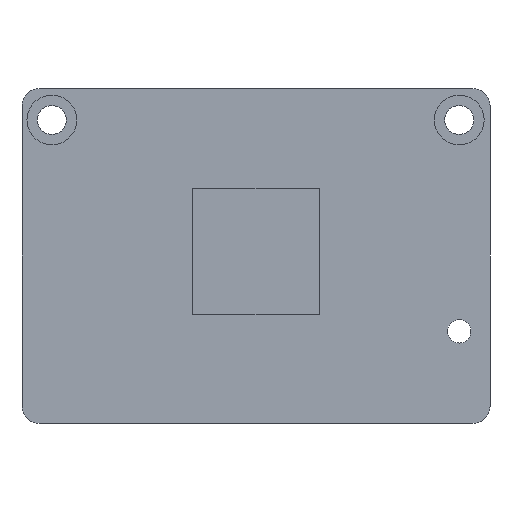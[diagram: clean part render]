
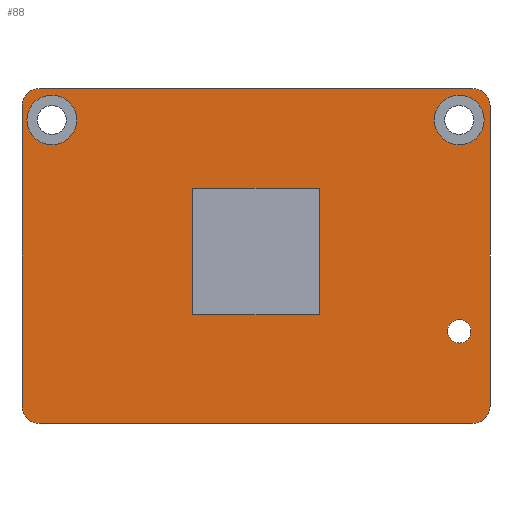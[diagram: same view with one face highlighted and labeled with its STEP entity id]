
A CAD part, front view. The second image highlights one B-rep face of the part: STEP entity #88.
In plain terms, the highlighted planar face has unit normal (0, -1, 0).
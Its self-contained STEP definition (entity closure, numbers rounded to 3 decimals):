
#24 = VERTEX_POINT('',#25);
#25 = CARTESIAN_POINT('',(18.85,-0.8,26.));
#40 = VERTEX_POINT('',#41);
#41 = CARTESIAN_POINT('',(18.85,-0.8,12.));
#47 = EDGE_CURVE('',#24,#40,#48,.T.);
#48 = LINE('',#49,#50);
#49 = CARTESIAN_POINT('',(18.85,-0.8,6.));
#50 = VECTOR('',#51,1.);
#51 = DIRECTION('',(0.,0.,-1.));
#71 = VERTEX_POINT('',#72);
#72 = CARTESIAN_POINT('',(32.85,-0.8,26.));
#78 = EDGE_CURVE('',#24,#71,#79,.T.);
#79 = LINE('',#80,#81);
#80 = CARTESIAN_POINT('',(9.425,-0.8,26.));
#81 = VECTOR('',#82,1.);
#82 = DIRECTION('',(1.,0.,0.));
#88 = ADVANCED_FACE('',(#89,#159,#170,#188,#199),#210,.F.);
#89 = FACE_BOUND('',#90,.F.);
#90 = EDGE_LOOP('',(#91,#101,#110,#118,#127,#135,#144,#152));
#91 = ORIENTED_EDGE('',*,*,#92,.F.);
#92 = EDGE_CURVE('',#93,#95,#97,.T.);
#93 = VERTEX_POINT('',#94);
#94 = CARTESIAN_POINT('',(1.9,-0.8,0.));
#95 = VERTEX_POINT('',#96);
#96 = CARTESIAN_POINT('',(49.8,-0.8,0.));
#97 = LINE('',#98,#99);
#98 = CARTESIAN_POINT('',(0.,-0.8,0.));
#99 = VECTOR('',#100,1.);
#100 = DIRECTION('',(1.,0.,0.));
#101 = ORIENTED_EDGE('',*,*,#102,.F.);
#102 = EDGE_CURVE('',#103,#93,#105,.T.);
#103 = VERTEX_POINT('',#104);
#104 = CARTESIAN_POINT('',(0.,-0.8,1.9));
#105 = CIRCLE('',#106,1.9);
#106 = AXIS2_PLACEMENT_3D('',#107,#108,#109);
#107 = CARTESIAN_POINT('',(1.9,-0.8,1.9));
#108 = DIRECTION('',(0.,-1.,0.));
#109 = DIRECTION('',(0.,0.,1.));
#110 = ORIENTED_EDGE('',*,*,#111,.T.);
#111 = EDGE_CURVE('',#103,#112,#114,.T.);
#112 = VERTEX_POINT('',#113);
#113 = CARTESIAN_POINT('',(0.,-0.8,35.1));
#114 = LINE('',#115,#116);
#115 = CARTESIAN_POINT('',(0.,-0.8,0.));
#116 = VECTOR('',#117,1.);
#117 = DIRECTION('',(0.,0.,1.));
#118 = ORIENTED_EDGE('',*,*,#119,.T.);
#119 = EDGE_CURVE('',#112,#120,#122,.T.);
#120 = VERTEX_POINT('',#121);
#121 = CARTESIAN_POINT('',(1.9,-0.8,37.));
#122 = CIRCLE('',#123,1.9);
#123 = AXIS2_PLACEMENT_3D('',#124,#125,#126);
#124 = CARTESIAN_POINT('',(1.9,-0.8,35.1));
#125 = DIRECTION('',(0.,1.,0.));
#126 = DIRECTION('',(0.,0.,1.));
#127 = ORIENTED_EDGE('',*,*,#128,.T.);
#128 = EDGE_CURVE('',#120,#129,#131,.T.);
#129 = VERTEX_POINT('',#130);
#130 = CARTESIAN_POINT('',(49.8,-0.8,37.));
#131 = LINE('',#132,#133);
#132 = CARTESIAN_POINT('',(0.,-0.8,37.));
#133 = VECTOR('',#134,1.);
#134 = DIRECTION('',(1.,0.,0.));
#135 = ORIENTED_EDGE('',*,*,#136,.T.);
#136 = EDGE_CURVE('',#129,#137,#139,.T.);
#137 = VERTEX_POINT('',#138);
#138 = CARTESIAN_POINT('',(51.7,-0.8,35.1));
#139 = CIRCLE('',#140,1.9);
#140 = AXIS2_PLACEMENT_3D('',#141,#142,#143);
#141 = CARTESIAN_POINT('',(49.8,-0.8,35.1));
#142 = DIRECTION('',(0.,1.,0.));
#143 = DIRECTION('',(0.,0.,1.));
#144 = ORIENTED_EDGE('',*,*,#145,.F.);
#145 = EDGE_CURVE('',#146,#137,#148,.T.);
#146 = VERTEX_POINT('',#147);
#147 = CARTESIAN_POINT('',(51.7,-0.8,1.9));
#148 = LINE('',#149,#150);
#149 = CARTESIAN_POINT('',(51.7,-0.8,0.));
#150 = VECTOR('',#151,1.);
#151 = DIRECTION('',(0.,0.,1.));
#152 = ORIENTED_EDGE('',*,*,#153,.F.);
#153 = EDGE_CURVE('',#95,#146,#154,.T.);
#154 = CIRCLE('',#155,1.9);
#155 = AXIS2_PLACEMENT_3D('',#156,#157,#158);
#156 = CARTESIAN_POINT('',(49.8,-0.8,1.9));
#157 = DIRECTION('',(0.,-1.,0.));
#158 = DIRECTION('',(0.,0.,1.));
#159 = FACE_BOUND('',#160,.F.);
#160 = EDGE_LOOP('',(#161));
#161 = ORIENTED_EDGE('',*,*,#162,.T.);
#162 = EDGE_CURVE('',#163,#163,#165,.T.);
#163 = VERTEX_POINT('',#164);
#164 = CARTESIAN_POINT('',(6.05,-0.8,33.529));
#165 = CIRCLE('',#166,2.75);
#166 = AXIS2_PLACEMENT_3D('',#167,#168,#169);
#167 = CARTESIAN_POINT('',(3.3,-0.8,33.529));
#168 = DIRECTION('',(0.,-1.,0.));
#169 = DIRECTION('',(1.,0.,0.));
#170 = FACE_BOUND('',#171,.F.);
#171 = EDGE_LOOP('',(#172,#173,#174,#182));
#172 = ORIENTED_EDGE('',*,*,#78,.F.);
#173 = ORIENTED_EDGE('',*,*,#47,.T.);
#174 = ORIENTED_EDGE('',*,*,#175,.T.);
#175 = EDGE_CURVE('',#40,#176,#178,.T.);
#176 = VERTEX_POINT('',#177);
#177 = CARTESIAN_POINT('',(32.85,-0.8,12.));
#178 = LINE('',#179,#180);
#179 = CARTESIAN_POINT('',(9.425,-0.8,12.));
#180 = VECTOR('',#181,1.);
#181 = DIRECTION('',(1.,0.,0.));
#182 = ORIENTED_EDGE('',*,*,#183,.F.);
#183 = EDGE_CURVE('',#71,#176,#184,.T.);
#184 = LINE('',#185,#186);
#185 = CARTESIAN_POINT('',(32.85,-0.8,6.));
#186 = VECTOR('',#187,1.);
#187 = DIRECTION('',(0.,0.,-1.));
#188 = FACE_BOUND('',#189,.F.);
#189 = EDGE_LOOP('',(#190));
#190 = ORIENTED_EDGE('',*,*,#191,.F.);
#191 = EDGE_CURVE('',#192,#192,#194,.T.);
#192 = VERTEX_POINT('',#193);
#193 = CARTESIAN_POINT('',(49.6,-0.8,10.188));
#194 = CIRCLE('',#195,1.3);
#195 = AXIS2_PLACEMENT_3D('',#196,#197,#198);
#196 = CARTESIAN_POINT('',(48.3,-0.8,10.188));
#197 = DIRECTION('',(-0.,1.,0.));
#198 = DIRECTION('',(1.,0.,0.));
#199 = FACE_BOUND('',#200,.F.);
#200 = EDGE_LOOP('',(#201));
#201 = ORIENTED_EDGE('',*,*,#202,.T.);
#202 = EDGE_CURVE('',#203,#203,#205,.T.);
#203 = VERTEX_POINT('',#204);
#204 = CARTESIAN_POINT('',(51.05,-0.8,33.529));
#205 = CIRCLE('',#206,2.75);
#206 = AXIS2_PLACEMENT_3D('',#207,#208,#209);
#207 = CARTESIAN_POINT('',(48.3,-0.8,33.529));
#208 = DIRECTION('',(0.,-1.,0.));
#209 = DIRECTION('',(1.,0.,0.));
#210 = PLANE('',#211);
#211 = AXIS2_PLACEMENT_3D('',#212,#213,#214);
#212 = CARTESIAN_POINT('',(0.,-0.8,0.));
#213 = DIRECTION('',(0.,1.,0.));
#214 = DIRECTION('',(0.,0.,1.));
